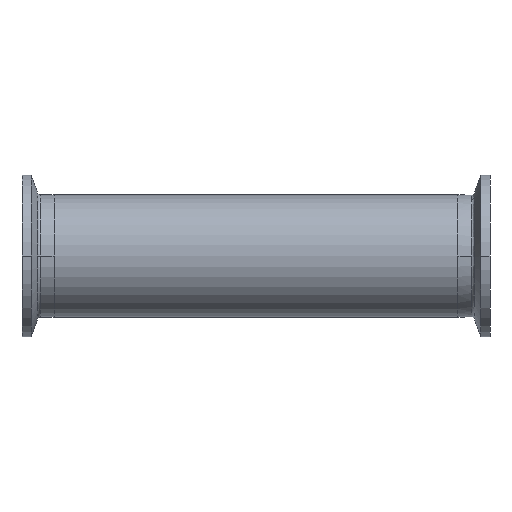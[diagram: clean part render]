
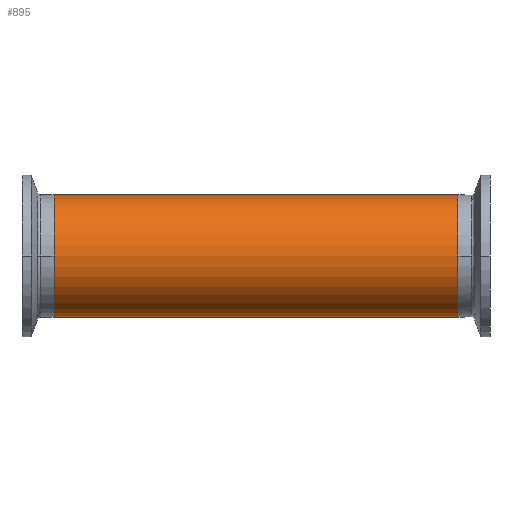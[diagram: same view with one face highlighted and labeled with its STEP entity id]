
A CAD part, front view. The second image highlights one B-rep face of the part: STEP entity #895.
In plain terms, the highlighted cylindrical face has radius 19.05 mm (diameter 38.1 mm), a partial arc.
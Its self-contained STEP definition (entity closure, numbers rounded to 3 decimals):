
#74 = LINE ( 'NONE', #3767, #1693 ) ;
#91 = ORIENTED_EDGE ( 'NONE', *, *, #2108, .T. ) ;
#270 = CARTESIAN_POINT ( 'NONE',  ( 63., 0., -19.05 ) ) ;
#421 = CARTESIAN_POINT ( 'NONE',  ( 116.882, 0., 0. ) ) ;
#447 = DIRECTION ( 'NONE',  ( -1., 0., 0. ) ) ;
#718 = VECTOR ( 'NONE', #3286, 1000. ) ;
#827 = LINE ( 'NONE', #1383, #718 ) ;
#856 = AXIS2_PLACEMENT_3D ( 'NONE', #1365, #3583, #1688 ) ;
#895 = ADVANCED_FACE ( 'NONE', ( #3210 ), #2064, .T. ) ;
#904 = VERTEX_POINT ( 'NONE', #270 ) ;
#983 = EDGE_LOOP ( 'NONE', ( #4105, #91, #2318, #3066 ) ) ;
#1365 = CARTESIAN_POINT ( 'NONE',  ( -63., 0., 0. ) ) ;
#1383 = CARTESIAN_POINT ( 'NONE',  ( 116.882, 0., -19.05 ) ) ;
#1638 = DIRECTION ( 'NONE',  ( -1., 0., 0. ) ) ;
#1688 = DIRECTION ( 'NONE',  ( 0., 0., 1. ) ) ;
#1693 = VECTOR ( 'NONE', #1873, 1000. ) ;
#1795 = CARTESIAN_POINT ( 'NONE',  ( -63., 0., 19.05 ) ) ;
#1873 = DIRECTION ( 'NONE',  ( -1., 0., 0. ) ) ;
#2064 = CYLINDRICAL_SURFACE ( 'NONE', #4061, 19.05 ) ;
#2108 = EDGE_CURVE ( 'NONE', #904, #3255, #3343, .T. ) ;
#2318 = ORIENTED_EDGE ( 'NONE', *, *, #2333, .T. ) ;
#2333 = EDGE_CURVE ( 'NONE', #3255, #2522, #74, .T. ) ;
#2385 = CARTESIAN_POINT ( 'NONE',  ( 63., 0., 0. ) ) ;
#2488 = CIRCLE ( 'NONE', #856, 19.05 ) ;
#2522 = VERTEX_POINT ( 'NONE', #1795 ) ;
#2699 = DIRECTION ( 'NONE',  ( 0., 0., 1. ) ) ;
#2937 = CARTESIAN_POINT ( 'NONE',  ( -63., 0., -19.05 ) ) ;
#3025 = VERTEX_POINT ( 'NONE', #2937 ) ;
#3066 = ORIENTED_EDGE ( 'NONE', *, *, #3995, .T. ) ;
#3127 = CARTESIAN_POINT ( 'NONE',  ( 63., 0., 19.05 ) ) ;
#3210 = FACE_OUTER_BOUND ( 'NONE', #983, .T. ) ;
#3255 = VERTEX_POINT ( 'NONE', #3127 ) ;
#3286 = DIRECTION ( 'NONE',  ( -1., 0., 0. ) ) ;
#3343 = CIRCLE ( 'NONE', #3791, 19.05 ) ;
#3583 = DIRECTION ( 'NONE',  ( 1., 0., 0. ) ) ;
#3584 = EDGE_CURVE ( 'NONE', #904, #3025, #827, .T. ) ;
#3605 = DIRECTION ( 'NONE',  ( 0., 0., 1. ) ) ;
#3767 = CARTESIAN_POINT ( 'NONE',  ( 116.882, 0., 19.05 ) ) ;
#3791 = AXIS2_PLACEMENT_3D ( 'NONE', #2385, #447, #2699 ) ;
#3995 = EDGE_CURVE ( 'NONE', #2522, #3025, #2488, .T. ) ;
#4061 = AXIS2_PLACEMENT_3D ( 'NONE', #421, #1638, #3605 ) ;
#4105 = ORIENTED_EDGE ( 'NONE', *, *, #3584, .F. ) ;
